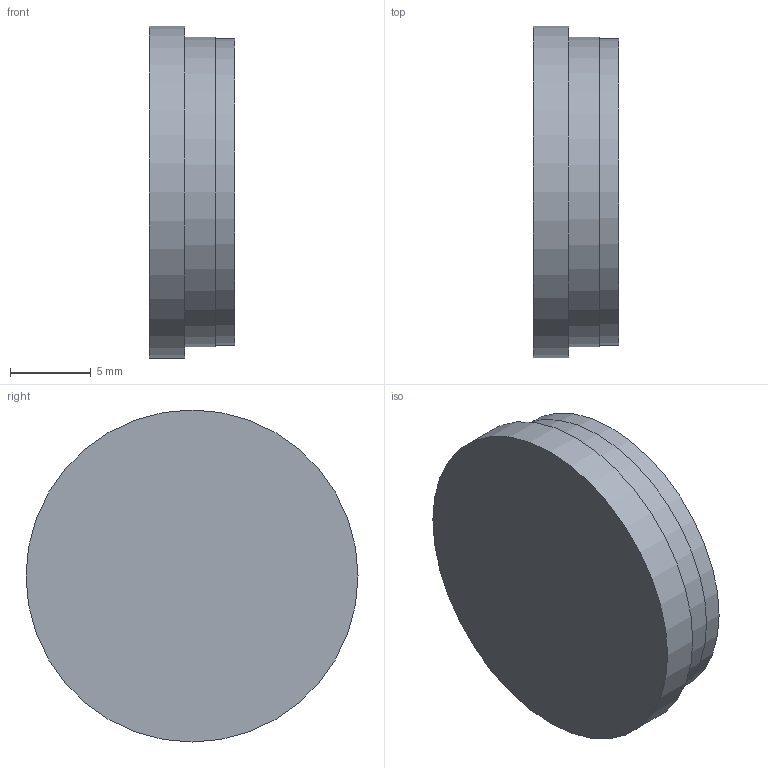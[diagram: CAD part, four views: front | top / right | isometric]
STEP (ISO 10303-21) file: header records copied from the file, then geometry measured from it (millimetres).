
FILE_DESCRIPTION(/* description */ ('STEP AP203'),/* implementation_level */ '2;1');
FILE_NAME(/* name */ 'P_MZ_Z_0101',/* time_stamp */ '2023-05-25T09:29:08+02:00',/* author */ ('License CC BY-ND 4.0'),/* organization */ ('CADENAS'),/* preprocessor_version */ 'ST-DEVELOPER v19.3',/* originating_system */ 'PARTsolutions',/* authorisation */ ' ');
FILE_SCHEMA (('CONFIG_CONTROL_DESIGN'));
Length unit declared in the file: millimetre
Products named in the file (1): P_MZ_Z_0101
Bounding box: 5.3 x 20.5 x 20.5 mm (x, y, z)
Volume: 1590.2 mm3; surface area: 991.1 mm2
Topology: 1 solids, 1 shells, 9 faces, 12 edges, 8 vertices
Faces by surface type: plane 5, cylinder 4
Full cylindrical faces by diameter (mm): 17 x1, 18.9 x1, 19.1 x1, 20.5 x1
Entity records: 204 total; most frequent: DIRECTION 36, CARTESIAN_POINT 26, AXIS2_PLACEMENT_3D 18, ORIENTED_EDGE 16, EDGE_LOOP 16, FACE_BOUND 16, ADVANCED_FACE 9, EDGE_CURVE 8
